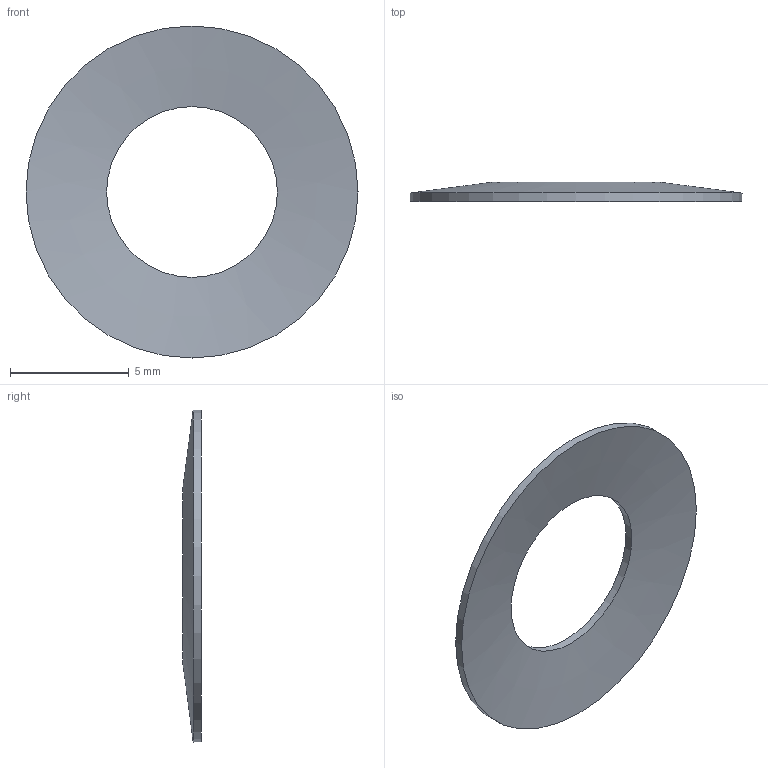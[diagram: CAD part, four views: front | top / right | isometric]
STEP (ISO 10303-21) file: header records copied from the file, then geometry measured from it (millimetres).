
FILE_DESCRIPTION(/* description */ ('123N'),/* implementation_level */ '2;1');
FILE_NAME(/* name */ 'ST.0140.0072.0035.step',/* time_stamp */ '2026-09-18T10:25:56+02:00',/* author */ ('impex-ready.pl'),/* organization */ ('ST.0140.0072.0035'),/* preprocessor_version */ 'ST-DEVELOPER v20.1',/* originating_system */ 'Autodesk Inventor 2026',/* authorisation */ 'Ugiecie 0,75 h0 = 0.34');
FILE_SCHEMA (('AUTOMOTIVE_DESIGN { 1 0 10303 214 3 1 1 }'));
Length unit declared in the file: millimetre
Products named in the file (1): ST.0140.0072.0035
Bounding box: 14 x 0.8 x 14 mm (x, y, z)
Volume: 40 mm3; surface area: 251.9 mm2
Topology: 1 solids, 1 shells, 4 faces, 8 edges, 4 vertices
Faces by surface type: cone 2, cylinder 2
Full cylindrical faces by diameter (mm): 7.2 x1, 14 x1
Entity records: 151 total; most frequent: DIRECTION 22, CARTESIAN_POINT 17, ORIENTED_EDGE 16, AXIS2_PLACEMENT_3D 9, EDGE_CURVE 8, FACE_OUTER_BOUND 4, EDGE_LOOP 4, LINE 4
